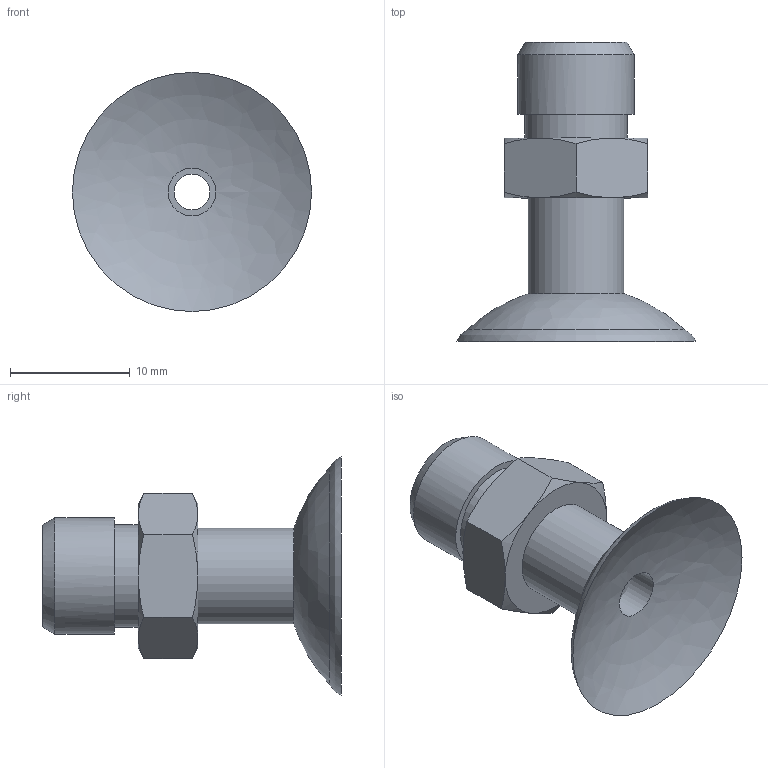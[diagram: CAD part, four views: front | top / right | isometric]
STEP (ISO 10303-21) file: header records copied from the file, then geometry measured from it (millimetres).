
FILE_DESCRIPTION (( 'STEP AP214' ), '1' );
FILE_NAME ('082010.STEP', '2020-08-20T15:43:08', ( '' ), ( '' ), 'SwSTEP 2.0', 'SolidWorks 2018', '' );
FILE_SCHEMA (( 'AUTOMOTIVE_DESIGN' ));
Length unit declared in the file: millimetre
Products named in the file (1): 082010
Bounding box: 20 x 25 x 20 mm (x, y, z)
Volume: 1797.2 mm3; surface area: 2015.8 mm2
Topology: 2 solids, 2 shells, 38 faces, 76 edges, 46 vertices
Faces by surface type: bspline 18, plane 14, cylinder 6
Full cylindrical faces by diameter (mm): 3 x1, 4 x1, 4.5 x1, 8 x1, 8.566 x1, 9.728 x1
Entity records: 1445 total; most frequent: CARTESIAN_POINT 760, ORIENTED_EDGE 126, DIRECTION 106, EDGE_CURVE 63, EDGE_LOOP 58, FACE_OUTER_BOUND 50, AXIS2_PLACEMENT_3D 50, VERTEX_POINT 45
